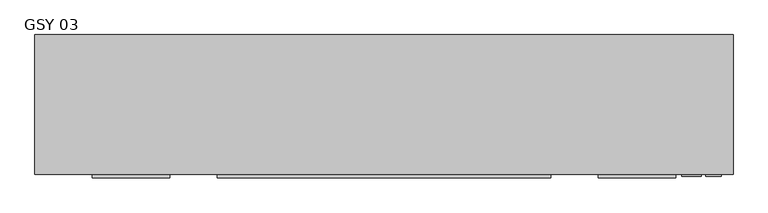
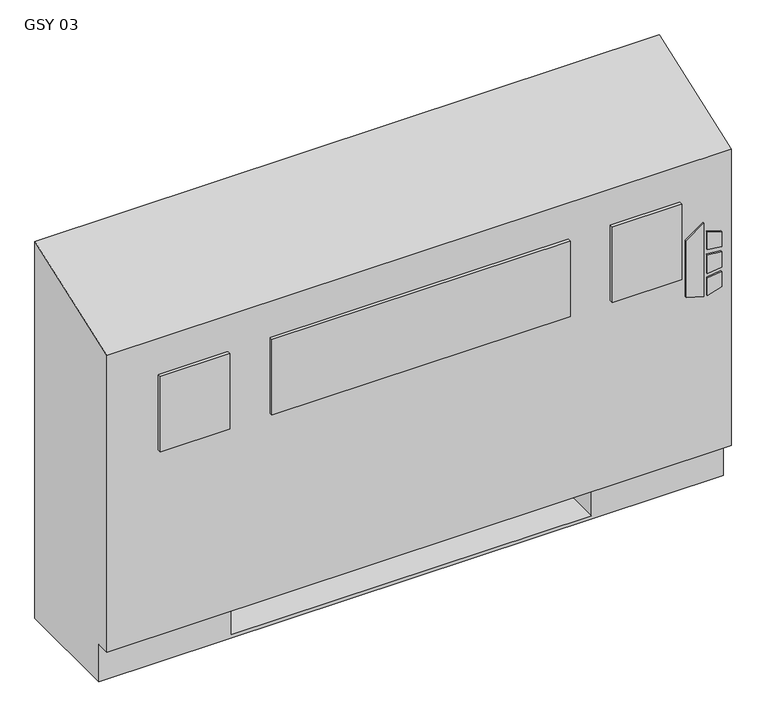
"""IFC4 building model written with IfcOpenShell, lengths in millimetres: proxy geometry, Vertical_Fan_Coil_Unit_-_GSY_-_IEC_-_2-Pipe_FS-FR_LH_2022 : GSY 03."""

from ifc_helpers import new_model, si_unit, point, frame, frame_2d, origin, place, context, project, spatial, polyline, circle_curve, trimmed, segment, composite_curve, outline, extrude, source, transform, mapped, element, save
from ifc_brep_helpers import plane_surface, revolved_surface, advanced_brep


def gsy_03_0272344f(model_context):
    return source(origin(), model_context, "Body", "SolidModel", [
        extrude(outline(polyline([(391.6086829, 639.8368862), (381.6606126, 672.0102728), (523.831537, 672.0102728), (500.8095309, 639.8368862), (391.6086829, 639.8368862)])), frame((0.0, 12.7, 0.0), z_axis=(0.0, 1.0, 0.0), x_axis=(0.0, 0.0, 1.0)), (0.0, 0.0, 1.0), 3.175),
        extrude(outline(polyline([(470.6079683, 678.7686058), (467.4055757, 704.85), (496.6344168, 704.85), (504.6988318, 678.7686058), (470.6079683, 678.7686058)])), frame((0.0, 12.7, 0.0), z_axis=(0.0, 1.0, 0.0), x_axis=(0.0, 0.0, 1.0)), (0.0, 0.0, 1.0), 3.175),
        extrude(outline(polyline([(418.7444414, 704.85), (415.0789404, 678.7686058), (381.6606126, 678.7686058), (390.2948498, 704.85), (418.7444414, 704.85)])), frame((0.0, 12.7, 0.0), z_axis=(0.0, 1.0, 0.0), x_axis=(0.0, 0.0, 1.0)), (0.0, 0.0, 1.0), 3.175),
        extrude(outline(polyline([(458.0596028, 704.85), (460.3414292, 678.7686058), (424.4038806, 678.7686058), (427.1451456, 704.85), (458.0596028, 704.85)])), frame((0.0, 12.7, 0.0), z_axis=(0.0, 1.0, 0.0), x_axis=(0.0, 0.0, 1.0)), (0.0, 0.0, 1.0), 3.175),
        extrude(outline(polyline([(-197.993, 9.525), (-324.993, 9.525), (-324.993, 15.875), (-197.993, 15.875), (-197.993, 9.525)])), frame((0.0, 0.0, 431.8), z_axis=(0.0, 0.0, 1.0), x_axis=(1.0, 0.0, 0.0)), (0.0, 0.0, 1.0), 146.05),
        extrude(outline(polyline([(425.45, 9.525), (-120.65, 9.525), (-120.65, 15.875), (425.45, 15.875), (425.45, 9.525)])), frame((0.0, 0.0, 431.8), z_axis=(0.0, 0.0, 1.0), x_axis=(1.0, 0.0, 0.0)), (0.0, 0.0, 1.0), 146.05),
        extrude(outline(polyline([(629.793, 9.525), (502.793, 9.525), (502.793, 15.875), (629.793, 15.875), (629.793, 9.525)])), frame((0.0, 0.0, 431.8), z_axis=(0.0, 0.0, 1.0), x_axis=(1.0, 0.0, 0.0)), (0.0, 0.0, 1.0), 146.05),
        extrude(outline(polyline([(482.6, 81.534), (482.6, 223.266), (603.25, 223.266), (603.25, 81.534), (482.6, 81.534)])), frame((0.0, 0.0, 327.025), z_axis=(0.0, 0.0, 1.0), x_axis=(1.0, 0.0, 0.0)), (0.0, 0.0, 1.0), 260.35),
        extrude(outline(composite_curve([segment(trimmed(circle_curve(frame_2d((80.645, 397.002)), 7.9375), [point((80.645, 404.9395))], [point((80.645, 389.0645))], False, "CARTESIAN"), True, "CONTINUOUS"), segment(trimmed(circle_curve(frame_2d((80.645, 397.002)), 7.9375), [point((80.645, 389.0645))], [point((80.645, 404.9395))], False, "CARTESIAN"), True, "CONTINUOUS")], self_intersect=False)), frame((-228.6, 0.0, 0.0), z_axis=(1.0, 0.0, 0.0), x_axis=(0.0, 1.0, 0.0)), (0.0, 0.0, 1.0), 50.8),
        extrude(outline(composite_curve([segment(trimmed(circle_curve(frame_2d((156.8958, 535.8892)), 7.9375), [point((156.8958, 543.8267))], [point((156.8958, 527.9517))], False, "CARTESIAN"), True, "CONTINUOUS"), segment(trimmed(circle_curve(frame_2d((156.8958, 535.8892)), 7.9375), [point((156.8958, 527.9517))], [point((156.8958, 543.8267))], False, "CARTESIAN"), True, "CONTINUOUS")], self_intersect=False)), frame((-228.6, 0.0, 0.0), z_axis=(1.0, 0.0, 0.0), x_axis=(0.0, 1.0, 0.0)), (0.0, 0.0, 1.0), 50.8),
        advanced_brep(
        [(-419.1, 244.475, 0.0), (723.9, 244.475, 0.0), (723.9, 41.275, 0.0), (-419.1, 41.275, 0.0), (-419.1, 244.475, 730.25), (723.9, 244.475, 730.25), (482.6, 244.475, 73.025), (711.2, 244.475, 73.025), (711.2, 244.475, 654.05), (482.6, 244.475, 654.05), (482.6, 244.475, 414.8650565), (511.175, 244.475, 414.8650565), (511.175, 244.475, 385.2349435), (482.6, 244.475, 385.2349435), (482.6, 244.475, 287.3375), (511.175, 244.475, 287.3375), (511.175, 244.475, 258.7625), (482.6, 244.475, 258.7625), (482.6, 244.475, 141.2875), (511.175, 244.475, 141.2875), (511.175, 244.475, 112.7125), (482.6, 244.475, 112.7125), (-177.8, 244.475, 654.05), (-406.4, 244.475, 654.05), (-406.4, 244.475, 73.025), (-177.8, 244.475, 73.025), (-177.8, 244.475, 112.7125), (-206.375, 244.475, 112.7125), (-206.375, 244.475, 141.2875), (-177.8, 244.475, 141.2875), (-177.8, 244.475, 258.7625), (-206.375, 244.475, 258.7625), (-206.375, 244.475, 287.3375), (-177.8, 244.475, 287.3375), (-177.8, 244.475, 385.2349435), (-206.375, 244.475, 385.2349435), (-206.375, 244.475, 414.8650565), (-177.8, 244.475, 414.8650565), (500.8626, 244.475, 127.0), (489.7374, 244.475, 127.0), (500.8626, 244.475, 400.05), (489.7374, 244.475, 400.05), (500.8626, 244.475, 273.05), (489.7374, 244.475, 273.05), (-184.9374, 244.475, 127.0), (-196.0626, 244.475, 127.0), (-184.9374, 244.475, 273.05), (-196.0626, 244.475, 273.05), (-184.9374, 244.475, 400.05), (-196.0626, 244.475, 400.05), (-419.1, 41.275, 73.025), (-419.1, 15.875, 73.025), (-419.1, 15.875, 647.7), (723.9, 15.875, 73.025), (723.9, 15.875, 647.7), (723.9, 41.275, 73.025), (-177.8, 41.275, 73.025), (-177.8, 225.425, 73.025), (482.6, 225.425, 73.025), (482.6, 41.275, 73.025), (482.6, 41.275, 6.35), (-177.8, 41.275, 6.35), (482.6, 41.275, 654.05), (711.2, 41.275, 654.05), (711.2, 41.275, 73.025), (482.6, 41.275, 73.025), (-177.8, 41.275, 654.05), (-177.8, 41.275, 73.025), (-406.4, 41.275, 73.025), (-406.4, 41.275, 654.05), (482.6, 225.425, 73.025), (482.6, 238.125, 112.7125), (482.6, 238.125, 141.2875), (482.6, 238.125, 258.7625), (482.6, 238.125, 287.3375), (482.6, 238.125, 385.2349435), (482.6, 238.125, 414.8650565), (-177.8, 225.425, 73.025), (-177.8, 238.125, 414.8650565), (-177.8, 238.125, 385.2349435), (-177.8, 238.125, 287.3375), (-177.8, 238.125, 258.7625), (-177.8, 238.125, 141.2875), (-177.8, 238.125, 112.7125), (-177.8, 225.425, 6.35), (482.6, 225.425, 6.35), (511.175, 238.125, 112.7125), (511.175, 238.125, 141.2875), (489.7374, 238.125, 127.0), (500.8626, 238.125, 127.0), (511.175, 238.125, 258.7625), (511.175, 238.125, 287.3375), (489.7374, 238.125, 273.05), (500.8626, 238.125, 273.05), (511.175, 238.125, 385.2349435), (511.175, 238.125, 414.8650565), (489.7374, 238.125, 400.05), (500.8626, 238.125, 400.05), (-206.375, 238.125, 141.2875), (-206.375, 238.125, 112.7125), (-196.0626, 238.125, 127.0), (-184.9374, 238.125, 127.0), (-206.375, 238.125, 287.3375), (-206.375, 238.125, 258.7625), (-196.0626, 238.125, 273.05), (-184.9374, 238.125, 273.05), (-206.375, 238.125, 414.8650565), (-206.375, 238.125, 385.2349435), (-196.0626, 238.125, 400.05), (-184.9374, 238.125, 400.05)],
        [
            (0, 1),
            (1, 2),
            (2, 3),
            (3, 0),
            (0, 4),
            (4, 5),
            (5, 1),
            (6, 7),
            (7, 8),
            (8, 9),
            (9, 10),
            (10, 11),
            (11, 12),
            (12, 13),
            (13, 14),
            (14, 15),
            (15, 16),
            (16, 17),
            (17, 18),
            (18, 19),
            (19, 20),
            (20, 21),
            (21, 6),
            (22, 23),
            (23, 24),
            (24, 25),
            (25, 26),
            (26, 27),
            (27, 28),
            (28, 29),
            (29, 30),
            (30, 31),
            (31, 32),
            (32, 33),
            (33, 34),
            (34, 35),
            (35, 36),
            (36, 37),
            (37, 22),
            (38, 39, circle_curve(frame((495.3, 244.475, 127.0), z_axis=(0.0, -1.0, 0.0), x_axis=(-1.0, 0.0, 0.0)), 5.5626)),
            (39, 38, circle_curve(frame((495.3, 244.475, 127.0), z_axis=(0.0, -1.0, 0.0), x_axis=(-1.0, 0.0, 0.0)), 5.5626)),
            (40, 41, circle_curve(frame((495.3, 244.475, 400.05), z_axis=(0.0, -1.0, 0.0), x_axis=(-1.0, 0.0, 0.0)), 5.5626)),
            (41, 40, circle_curve(frame((495.3, 244.475, 400.05), z_axis=(0.0, -1.0, 0.0), x_axis=(-1.0, 0.0, 0.0)), 5.5626)),
            (42, 43, circle_curve(frame((495.3, 244.475, 273.05), z_axis=(0.0, -1.0, 0.0), x_axis=(-1.0, 0.0, 0.0)), 5.5626)),
            (43, 42, circle_curve(frame((495.3, 244.475, 273.05), z_axis=(0.0, -1.0, 0.0), x_axis=(-1.0, 0.0, 0.0)), 5.5626)),
            (44, 45, circle_curve(frame((-190.5, 244.475, 127.0), z_axis=(0.0, -1.0, 0.0), x_axis=(-1.0, 0.0, 0.0)), 5.5626)),
            (45, 44, circle_curve(frame((-190.5, 244.475, 127.0), z_axis=(0.0, -1.0, 0.0), x_axis=(-1.0, 0.0, 0.0)), 5.5626)),
            (46, 47, circle_curve(frame((-190.5, 244.475, 273.05), z_axis=(0.0, -1.0, 0.0), x_axis=(-1.0, 0.0, 0.0)), 5.5626)),
            (47, 46, circle_curve(frame((-190.5, 244.475, 273.05), z_axis=(0.0, -1.0, 0.0), x_axis=(-1.0, 0.0, 0.0)), 5.5626)),
            (48, 49, circle_curve(frame((-190.5, 244.475, 400.05), z_axis=(0.0, -1.0, 0.0), x_axis=(-1.0, 0.0, 0.0)), 5.5626)),
            (49, 48, circle_curve(frame((-190.5, 244.475, 400.05), z_axis=(0.0, -1.0, 0.0), x_axis=(-1.0, 0.0, 0.0)), 5.5626)),
            (3, 50),
            (50, 51),
            (51, 52),
            (52, 4),
            (51, 53),
            (53, 54),
            (54, 52),
            (5, 54),
            (53, 55),
            (55, 2),
            (50, 56),
            (56, 57),
            (57, 58),
            (58, 59),
            (59, 55),
            (59, 60),
            (60, 61),
            (61, 56),
            (62, 63),
            (63, 64),
            (64, 65),
            (65, 62),
            (66, 67),
            (67, 68),
            (68, 69),
            (69, 66),
            (65, 70),
            (70, 6),
            (21, 71),
            (71, 72),
            (72, 18),
            (17, 73),
            (73, 74),
            (74, 14),
            (13, 75),
            (75, 76),
            (76, 10),
            (9, 62),
            (64, 7),
            (63, 8),
            (69, 23),
            (22, 66),
            (68, 24),
            (67, 77),
            (77, 25),
            (37, 78),
            (78, 79),
            (79, 34),
            (33, 80),
            (80, 81),
            (81, 30),
            (29, 82),
            (82, 83),
            (83, 26),
            (57, 84),
            (84, 85),
            (85, 58),
            (85, 60),
            (84, 61),
            (71, 86),
            (86, 87),
            (87, 72),
            (88, 89, circle_curve(frame((495.3, 238.125, 127.0), z_axis=(0.0, 1.0, 0.0), x_axis=(-1.0, 0.0, 0.0)), 5.5626)),
            (89, 88, circle_curve(frame((495.3, 238.125, 127.0), z_axis=(0.0, 1.0, 0.0), x_axis=(-1.0, 0.0, 0.0)), 5.5626)),
            (73, 90),
            (90, 91),
            (91, 74),
            (92, 93, circle_curve(frame((495.3, 238.125, 273.05), z_axis=(0.0, 1.0, 0.0), x_axis=(-1.0, 0.0, 0.0)), 5.5626)),
            (93, 92, circle_curve(frame((495.3, 238.125, 273.05), z_axis=(0.0, 1.0, 0.0), x_axis=(-1.0, 0.0, 0.0)), 5.5626)),
            (75, 94),
            (94, 95),
            (95, 76),
            (96, 97, circle_curve(frame((495.3, 238.125, 400.05), z_axis=(0.0, 1.0, 0.0), x_axis=(-1.0, 0.0, 0.0)), 5.5626)),
            (97, 96, circle_curve(frame((495.3, 238.125, 400.05), z_axis=(0.0, 1.0, 0.0), x_axis=(-1.0, 0.0, 0.0)), 5.5626)),
            (98, 99),
            (99, 83),
            (82, 98),
            (100, 101, circle_curve(frame((-190.5, 238.125, 127.0), z_axis=(0.0, 1.0, 0.0), x_axis=(-1.0, 0.0, 0.0)), 5.5626)),
            (101, 100, circle_curve(frame((-190.5, 238.125, 127.0), z_axis=(0.0, 1.0, 0.0), x_axis=(-1.0, 0.0, 0.0)), 5.5626)),
            (102, 103),
            (103, 81),
            (80, 102),
            (104, 105, circle_curve(frame((-190.5, 238.125, 273.05), z_axis=(0.0, 1.0, 0.0), x_axis=(-1.0, 0.0, 0.0)), 5.5626)),
            (105, 104, circle_curve(frame((-190.5, 238.125, 273.05), z_axis=(0.0, 1.0, 0.0), x_axis=(-1.0, 0.0, 0.0)), 5.5626)),
            (106, 107),
            (107, 79),
            (78, 106),
            (108, 109, circle_curve(frame((-190.5, 238.125, 400.05), z_axis=(0.0, 1.0, 0.0), x_axis=(-1.0, 0.0, 0.0)), 5.5626)),
            (109, 108, circle_curve(frame((-190.5, 238.125, 400.05), z_axis=(0.0, 1.0, 0.0), x_axis=(-1.0, 0.0, 0.0)), 5.5626)),
            (87, 19),
            (86, 20),
            (91, 15),
            (90, 16),
            (95, 11),
            (94, 12),
            (28, 98),
            (99, 27),
            (32, 102),
            (103, 31),
            (36, 106),
            (107, 35),
            (88, 39),
            (38, 89),
            (96, 41),
            (40, 97),
            (92, 43),
            (42, 93),
            (100, 45),
            (44, 101),
            (104, 47),
            (46, 105),
            (108, 49),
            (48, 109),
        ],
        [
            plane_surface(frame((-419.1, 244.475, 0.0), z_axis=(0.0, 0.0, -1.0), x_axis=(1.0, 0.0, 0.0))),
            plane_surface(frame((723.9, 244.475, 730.25), z_axis=(0.0, 1.0, 0.0), x_axis=(0.0, 0.0, -1.0))),
            plane_surface(frame((-419.1, 244.475, 730.25), z_axis=(-1.0, 0.0, 0.0), x_axis=(0.0, 0.0, -1.0))),
            plane_surface(frame((-419.1, 15.875, 730.25), z_axis=(0.0, -1.0, 0.0), x_axis=(0.0, 0.0, -1.0))),
            plane_surface(frame((723.9, 15.875, 730.25), z_axis=(1.0, 0.0, 0.0), x_axis=(0.0, 0.0, -1.0))),
            plane_surface(frame((-419.1, 15.875, 73.025), z_axis=(0.0, 0.0, -1.0), x_axis=(1.0, 0.0, 0.0))),
            plane_surface(frame((-419.1, 41.275, 73.025), z_axis=(0.0, -1.0, 0.0), x_axis=(1.0, 0.0, 0.0))),
            plane_surface(frame((482.6, 41.275, 654.05), z_axis=(0.0, 1.0, 0.0), x_axis=(0.0, 0.0, -1.0))),
            plane_surface(frame((482.6, 41.275, 654.05), z_axis=(1.0, 0.0, 0.0), x_axis=(0.0, 1.0, 0.0))),
            plane_surface(frame((482.6, 41.275, 73.025), z_axis=(0.0, 0.0, 1.0), x_axis=(0.0, 1.0, 0.0))),
            plane_surface(frame((711.2, 41.275, 73.025), z_axis=(-1.0, 0.0, 0.0), x_axis=(0.0, 1.0, 0.0))),
            plane_surface(frame((711.2, 41.275, 654.05), z_axis=(0.0, 0.0, -1.0), x_axis=(0.0, 1.0, 0.0))),
            plane_surface(frame((-177.8, 41.275, 654.05), z_axis=(0.0, 0.0, -1.0), x_axis=(0.0, 1.0, 0.0))),
            plane_surface(frame((-406.4, 41.275, 654.05), z_axis=(1.0, 0.0, 0.0), x_axis=(0.0, 1.0, 0.0))),
            plane_surface(frame((-406.4, 41.275, 73.025), z_axis=(0.0, 0.0, 1.0), x_axis=(0.0, 1.0, 0.0))),
            plane_surface(frame((-177.8, 41.275, 73.025), z_axis=(-1.0, 0.0, 0.0), x_axis=(0.0, 1.0, 0.0))),
            plane_surface(frame((482.6, 225.425, 73.025), z_axis=(0.0, -1.0, 0.0), x_axis=(0.0, 0.0, -1.0))),
            plane_surface(frame((482.6, 225.425, 73.025), z_axis=(-1.0, 0.0, 0.0), x_axis=(0.0, -1.0, 0.0))),
            plane_surface(frame((482.6, 225.425, 6.35), z_axis=(0.0, 0.0, 1.0), x_axis=(0.0, -1.0, 0.0))),
            plane_surface(frame((-177.8, 225.425, 6.35), z_axis=(1.0, 0.0, 0.0), x_axis=(0.0, -1.0, 0.0))),
            plane_surface(frame((511.175, 238.125, 141.2875), z_axis=(0.0, -1.0, 0.0), x_axis=(-1.0, 0.0, 0.0))),
            plane_surface(frame((482.6, 244.475, 141.2875), z_axis=(0.0, 0.0, 1.0), x_axis=(0.0, -1.0, 0.0))),
            plane_surface(frame((511.175, 244.475, 141.2875), z_axis=(1.0, 0.0, 0.0), x_axis=(0.0, -1.0, 0.0))),
            plane_surface(frame((511.175, 244.475, 112.7125), z_axis=(0.0, 0.0, -1.0), x_axis=(0.0, -1.0, 0.0))),
            plane_surface(frame((482.6, 244.475, 287.3375), z_axis=(0.0, 0.0, 1.0), x_axis=(0.0, -1.0, 0.0))),
            plane_surface(frame((511.175, 244.475, 287.3375), z_axis=(1.0, 0.0, 0.0), x_axis=(0.0, -1.0, 0.0))),
            plane_surface(frame((511.175, 244.475, 258.7625), z_axis=(0.0, 0.0, -1.0), x_axis=(0.0, -1.0, 0.0))),
            plane_surface(frame((482.6, 244.475, 414.8650565), z_axis=(0.0, 0.0, 1.0), x_axis=(0.0, -1.0, 0.0))),
            plane_surface(frame((511.175, 244.475, 414.8650565), z_axis=(1.0, 0.0, 0.0), x_axis=(0.0, -1.0, 0.0))),
            plane_surface(frame((511.175, 244.475, 385.2349435), z_axis=(0.0, 0.0, -1.0), x_axis=(0.0, -1.0, 0.0))),
            plane_surface(frame((-206.375, 244.475, 141.2875), z_axis=(0.0, 0.0, 1.0), x_axis=(0.0, -1.0, 0.0))),
            plane_surface(frame((-177.8, 244.475, 112.7125), z_axis=(0.0, 0.0, -1.0), x_axis=(0.0, -1.0, 0.0))),
            plane_surface(frame((-206.375, 244.475, 112.7125), z_axis=(-1.0, 0.0, 0.0), x_axis=(0.0, -1.0, 0.0))),
            plane_surface(frame((-206.375, 244.475, 287.3375), z_axis=(0.0, 0.0, 1.0), x_axis=(0.0, -1.0, 0.0))),
            plane_surface(frame((-177.8, 244.475, 258.7625), z_axis=(0.0, 0.0, -1.0), x_axis=(0.0, -1.0, 0.0))),
            plane_surface(frame((-206.375, 244.475, 258.7625), z_axis=(-1.0, 0.0, 0.0), x_axis=(0.0, -1.0, 0.0))),
            plane_surface(frame((-206.375, 244.475, 414.8650565), z_axis=(0.0, 0.0, 1.0), x_axis=(0.0, -1.0, 0.0))),
            plane_surface(frame((-177.8, 244.475, 385.2349435), z_axis=(0.0, 0.0, -1.0), x_axis=(0.0, -1.0, 0.0))),
            plane_surface(frame((-206.375, 244.475, 385.2349435), z_axis=(-1.0, 0.0, 0.0), x_axis=(0.0, -1.0, 0.0))),
            revolved_surface(polyline([(489.73740000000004, 238.125, 127.0), (489.73740000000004, 244.475, 127.0)]), (495.3, 244.475, 127.0), (0.0, -1.0, 0.0)),
            revolved_surface(polyline([(489.73740000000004, 238.125, 400.05), (489.73740000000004, 244.475, 400.05)]), (495.3, 244.475, 400.05), (0.0, -1.0, 0.0)),
            revolved_surface(polyline([(489.73740000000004, 238.125, 273.05), (489.73740000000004, 244.475, 273.05)]), (495.3, 244.475, 273.05), (0.0, -1.0, 0.0)),
            revolved_surface(polyline([(-196.0626, 238.125, 127.0), (-196.0626, 244.475, 127.0)]), (-190.5, 244.475, 127.0), (0.0, -1.0, 0.0)),
            revolved_surface(polyline([(-196.0626, 238.125, 273.05), (-196.0626, 244.475, 273.05)]), (-190.5, 244.475, 273.05), (0.0, -1.0, 0.0)),
            revolved_surface(polyline([(-196.0626, 238.125, 400.05), (-196.0626, 244.475, 400.05)]), (-190.5, 244.475, 400.05), (0.0, -1.0, 0.0)),
            plane_surface(frame((-419.1, 244.475, 730.25), z_axis=(0.0, -0.33964446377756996, 0.9405538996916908), x_axis=(1.0, 0.0, 0.0))),
        ],
        [
            (0, [[1, 2, 3, 4]]),
            (1, [[-1, 5, 6, 7], [8, 9, 10, 11, 12, 13, 14, 15, 16, 17, 18, 19, 20, 21, 22, 23], [24, 25, 26, 27, 28, 29, 30, 31, 32, 33, 34, 35, 36, 37, 38, 39], [40, 41], [42, 43], [44, 45], [46, 47], [48, 49], [50, 51]]),
            (2, [[-5, -4, 52, 53, 54, 55]]),
            (3, [[56, 57, 58, -54]]),
            (4, [[-7, 59, -57, 60, 61, -2]]),
            (5, [[-53, 62, 63, 64, 65, 66, -60, -56]]),
            (6, [[-3, -61, -66, 67, 68, 69, -62, -52]]),
            (7, [[70, 71, 72, 73]]),
            (7, [[74, 75, 76, 77]]),
            (8, [[-73, 78, 79, -23, 80, 81, 82, -19, 83, 84, 85, -15, 86, 87, 88, -11, 89]]),
            (9, [[-72, 90, -8, -79, -78]]),
            (10, [[-71, 91, -9, -90]]),
            (11, [[-70, -89, -10, -91]]),
            (12, [[-77, 92, -24, 93]]),
            (13, [[-76, 94, -25, -92]]),
            (14, [[-75, 95, 96, -26, -94]]),
            (15, [[-74, -93, -39, 97, 98, 99, -35, 100, 101, 102, -31, 103, 104, 105, -27, -96, -95]]),
            (16, [[-64, 106, 107, 108]]),
            (17, [[-108, 109, -67, -65]]),
            (18, [[-107, 110, -68, -109]]),
            (19, [[-106, -63, -69, -110]]),
            (20, [[111, 112, 113, -81], [114, 115]]),
            (20, [[116, 117, 118, -84], [119, 120]]),
            (20, [[121, 122, 123, -87], [124, 125]]),
            (20, [[126, 127, -104, 128], [129, 130]]),
            (20, [[131, 132, -101, 133], [134, 135]]),
            (20, [[136, 137, -98, 138], [139, 140]]),
            (21, [[-113, 141, -20, -82]]),
            (22, [[-112, 142, -21, -141]]),
            (23, [[-111, -80, -22, -142]]),
            (24, [[-118, 143, -16, -85]]),
            (25, [[-117, 144, -17, -143]]),
            (26, [[-116, -83, -18, -144]]),
            (27, [[-123, 145, -12, -88]]),
            (28, [[-122, 146, -13, -145]]),
            (29, [[-121, -86, -14, -146]]),
            (30, [[-128, -103, -30, 147]]),
            (31, [[-127, 148, -28, -105]]),
            (32, [[-126, -147, -29, -148]]),
            (33, [[-133, -100, -34, 149]]),
            (34, [[-132, 150, -32, -102]]),
            (35, [[-131, -149, -33, -150]]),
            (36, [[-138, -97, -38, 151]]),
            (37, [[-137, 152, -36, -99]]),
            (38, [[-136, -151, -37, -152]]),
            (39, [[153, -40, 154, -114]]),
            (39, [[-153, -115, -154, -41]]),
            (40, [[155, -42, 156, -124]]),
            (40, [[-155, -125, -156, -43]]),
            (41, [[157, -44, 158, -119]]),
            (41, [[-157, -120, -158, -45]]),
            (42, [[159, -46, 160, -129]]),
            (42, [[-159, -130, -160, -47]]),
            (43, [[161, -48, 162, -134]]),
            (43, [[-161, -135, -162, -49]]),
            (44, [[163, -50, 164, -139]]),
            (44, [[-163, -140, -164, -51]]),
            (45, [[-6, -55, -58, -59]]),
        ],
    ),
    ])


if __name__ == "__main__":
    model = new_model("IFC4")
    model_context = context("Model", 3, world=origin())
    ifc_project = project(units=[si_unit("LENGTHUNIT", "METRE", prefix="MILLI")], contexts=[model_context])
    site = spatial("IfcSite", under=ifc_project)
    building = spatial("IfcBuilding", under=site)
    placement = place(None, origin())
    gsy_03_shape = gsy_03_0272344f(model_context)
    element("IfcBuildingElementProxy", 1, Name="Vertical_Fan_Coil_Unit_-_GSY_-_IEC_-_2-Pipe_FS-FR_LH_2022 : GSY 03", ObjectType="Vertical_Fan_Coil_Unit_-_GSY_-_IEC_-_2-Pipe_FS-FR_LH_2022 : GSY 03", at=placement, inside=building, context=model_context, shape_type="MappedRepresentation", body=[
        mapped(gsy_03_shape, transform((0.0, 0.0, 0.0), x_axis=(1.0, 0.0, 0.0), y_axis=(0.0, 1.0, 0.0), z_axis=(0.0, 0.0, 1.0))),
    ])
    save(model, "model.ifc")
